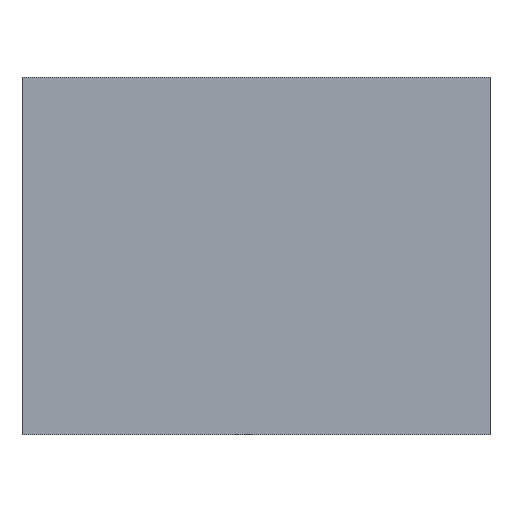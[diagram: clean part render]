
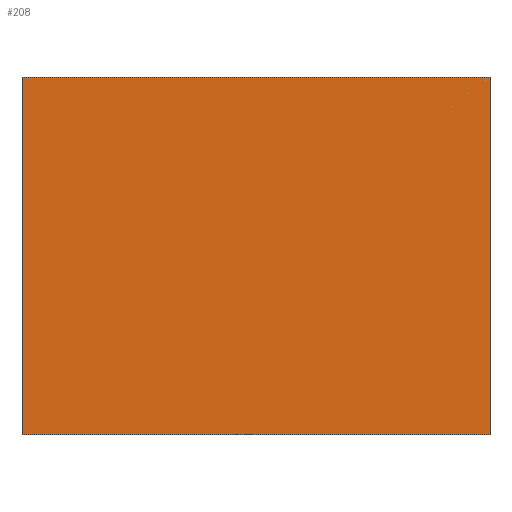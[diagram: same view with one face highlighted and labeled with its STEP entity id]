
A CAD part, front view. The second image highlights one B-rep face of the part: STEP entity #208.
In plain terms, the highlighted planar face has unit normal (0, -1, 0).
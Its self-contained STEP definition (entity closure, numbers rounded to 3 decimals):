
#208 = ADVANCED_FACE('',(#209),#223,.F.);
#209 = FACE_BOUND('',#210,.T.);
#210 = EDGE_LOOP('',(#211,#246,#274,#302));
#211 = ORIENTED_EDGE('',*,*,#212,.F.);
#212 = EDGE_CURVE('',#213,#215,#217,.T.);
#213 = VERTEX_POINT('',#214);
#214 = CARTESIAN_POINT('',(-17.,-17.399,-200.));
#215 = VERTEX_POINT('',#216);
#216 = CARTESIAN_POINT('',(17.,-17.399,-200.));
#217 = SURFACE_CURVE('',#218,(#222,#234),.PCURVE_S1.);
#218 = LINE('',#219,#220);
#219 = CARTESIAN_POINT('',(-17.,-17.399,-200.));
#220 = VECTOR('',#221,1.);
#221 = DIRECTION('',(1.,0.,0.));
#222 = PCURVE('',#223,#228);
#223 = PLANE('',#224);
#224 = AXIS2_PLACEMENT_3D('',#225,#226,#227);
#225 = CARTESIAN_POINT('',(-17.,-17.399,-226.));
#226 = DIRECTION('',(-0.,1.,0.));
#227 = DIRECTION('',(0.,0.,1.));
#228 = DEFINITIONAL_REPRESENTATION('',(#229),#233);
#229 = LINE('',#230,#231);
#230 = CARTESIAN_POINT('',(26.,0.));
#231 = VECTOR('',#232,1.);
#232 = DIRECTION('',(0.,1.));
#233 = ( GEOMETRIC_REPRESENTATION_CONTEXT(2) 
PARAMETRIC_REPRESENTATION_CONTEXT() REPRESENTATION_CONTEXT('2D SPACE',''
  ) );
#234 = PCURVE('',#235,#240);
#235 = PLANE('',#236);
#236 = AXIS2_PLACEMENT_3D('',#237,#238,#239);
#237 = CARTESIAN_POINT('',(-17.,-17.399,-200.));
#238 = DIRECTION('',(0.,0.,1.));
#239 = DIRECTION('',(1.,0.,-0.));
#240 = DEFINITIONAL_REPRESENTATION('',(#241),#245);
#241 = LINE('',#242,#243);
#242 = CARTESIAN_POINT('',(0.,0.));
#243 = VECTOR('',#244,1.);
#244 = DIRECTION('',(1.,0.));
#245 = ( GEOMETRIC_REPRESENTATION_CONTEXT(2) 
PARAMETRIC_REPRESENTATION_CONTEXT() REPRESENTATION_CONTEXT('2D SPACE',''
  ) );
#246 = ORIENTED_EDGE('',*,*,#247,.F.);
#247 = EDGE_CURVE('',#248,#213,#250,.T.);
#248 = VERTEX_POINT('',#249);
#249 = CARTESIAN_POINT('',(-17.,-17.399,-226.));
#250 = SURFACE_CURVE('',#251,(#255,#262),.PCURVE_S1.);
#251 = LINE('',#252,#253);
#252 = CARTESIAN_POINT('',(-17.,-17.399,-226.));
#253 = VECTOR('',#254,1.);
#254 = DIRECTION('',(0.,-0.,1.));
#255 = PCURVE('',#223,#256);
#256 = DEFINITIONAL_REPRESENTATION('',(#257),#261);
#257 = LINE('',#258,#259);
#258 = CARTESIAN_POINT('',(0.,0.));
#259 = VECTOR('',#260,1.);
#260 = DIRECTION('',(1.,0.));
#261 = ( GEOMETRIC_REPRESENTATION_CONTEXT(2) 
PARAMETRIC_REPRESENTATION_CONTEXT() REPRESENTATION_CONTEXT('2D SPACE',''
  ) );
#262 = PCURVE('',#263,#268);
#263 = PLANE('',#264);
#264 = AXIS2_PLACEMENT_3D('',#265,#266,#267);
#265 = CARTESIAN_POINT('',(-17.,-17.399,-226.));
#266 = DIRECTION('',(1.,0.,-0.));
#267 = DIRECTION('',(-0.,0.,-1.));
#268 = DEFINITIONAL_REPRESENTATION('',(#269),#273);
#269 = LINE('',#270,#271);
#270 = CARTESIAN_POINT('',(0.,0.));
#271 = VECTOR('',#272,1.);
#272 = DIRECTION('',(-1.,0.));
#273 = ( GEOMETRIC_REPRESENTATION_CONTEXT(2) 
PARAMETRIC_REPRESENTATION_CONTEXT() REPRESENTATION_CONTEXT('2D SPACE',''
  ) );
#274 = ORIENTED_EDGE('',*,*,#275,.F.);
#275 = EDGE_CURVE('',#276,#248,#278,.T.);
#276 = VERTEX_POINT('',#277);
#277 = CARTESIAN_POINT('',(17.,-17.399,-226.));
#278 = SURFACE_CURVE('',#279,(#283,#290),.PCURVE_S1.);
#279 = LINE('',#280,#281);
#280 = CARTESIAN_POINT('',(-17.,-17.399,-226.));
#281 = VECTOR('',#282,1.);
#282 = DIRECTION('',(-1.,-0.,-0.));
#283 = PCURVE('',#223,#284);
#284 = DEFINITIONAL_REPRESENTATION('',(#285),#289);
#285 = LINE('',#286,#287);
#286 = CARTESIAN_POINT('',(0.,0.));
#287 = VECTOR('',#288,1.);
#288 = DIRECTION('',(-0.,-1.));
#289 = ( GEOMETRIC_REPRESENTATION_CONTEXT(2) 
PARAMETRIC_REPRESENTATION_CONTEXT() REPRESENTATION_CONTEXT('2D SPACE',''
  ) );
#290 = PCURVE('',#291,#296);
#291 = PLANE('',#292);
#292 = AXIS2_PLACEMENT_3D('',#293,#294,#295);
#293 = CARTESIAN_POINT('',(-17.,-17.399,-226.));
#294 = DIRECTION('',(0.,0.,1.));
#295 = DIRECTION('',(1.,0.,-0.));
#296 = DEFINITIONAL_REPRESENTATION('',(#297),#301);
#297 = LINE('',#298,#299);
#298 = CARTESIAN_POINT('',(0.,0.));
#299 = VECTOR('',#300,1.);
#300 = DIRECTION('',(-1.,0.));
#301 = ( GEOMETRIC_REPRESENTATION_CONTEXT(2) 
PARAMETRIC_REPRESENTATION_CONTEXT() REPRESENTATION_CONTEXT('2D SPACE',''
  ) );
#302 = ORIENTED_EDGE('',*,*,#303,.F.);
#303 = EDGE_CURVE('',#215,#276,#304,.T.);
#304 = SURFACE_CURVE('',#305,(#309,#316),.PCURVE_S1.);
#305 = LINE('',#306,#307);
#306 = CARTESIAN_POINT('',(17.,-17.399,-226.));
#307 = VECTOR('',#308,1.);
#308 = DIRECTION('',(-0.,0.,-1.));
#309 = PCURVE('',#223,#310);
#310 = DEFINITIONAL_REPRESENTATION('',(#311),#315);
#311 = LINE('',#312,#313);
#312 = CARTESIAN_POINT('',(0.,34.));
#313 = VECTOR('',#314,1.);
#314 = DIRECTION('',(-1.,0.));
#315 = ( GEOMETRIC_REPRESENTATION_CONTEXT(2) 
PARAMETRIC_REPRESENTATION_CONTEXT() REPRESENTATION_CONTEXT('2D SPACE',''
  ) );
#316 = PCURVE('',#317,#322);
#317 = PLANE('',#318);
#318 = AXIS2_PLACEMENT_3D('',#319,#320,#321);
#319 = CARTESIAN_POINT('',(17.,-17.399,-226.));
#320 = DIRECTION('',(1.,0.,-0.));
#321 = DIRECTION('',(-0.,0.,-1.));
#322 = DEFINITIONAL_REPRESENTATION('',(#323),#327);
#323 = LINE('',#324,#325);
#324 = CARTESIAN_POINT('',(0.,0.));
#325 = VECTOR('',#326,1.);
#326 = DIRECTION('',(1.,0.));
#327 = ( GEOMETRIC_REPRESENTATION_CONTEXT(2) 
PARAMETRIC_REPRESENTATION_CONTEXT() REPRESENTATION_CONTEXT('2D SPACE',''
  ) );
